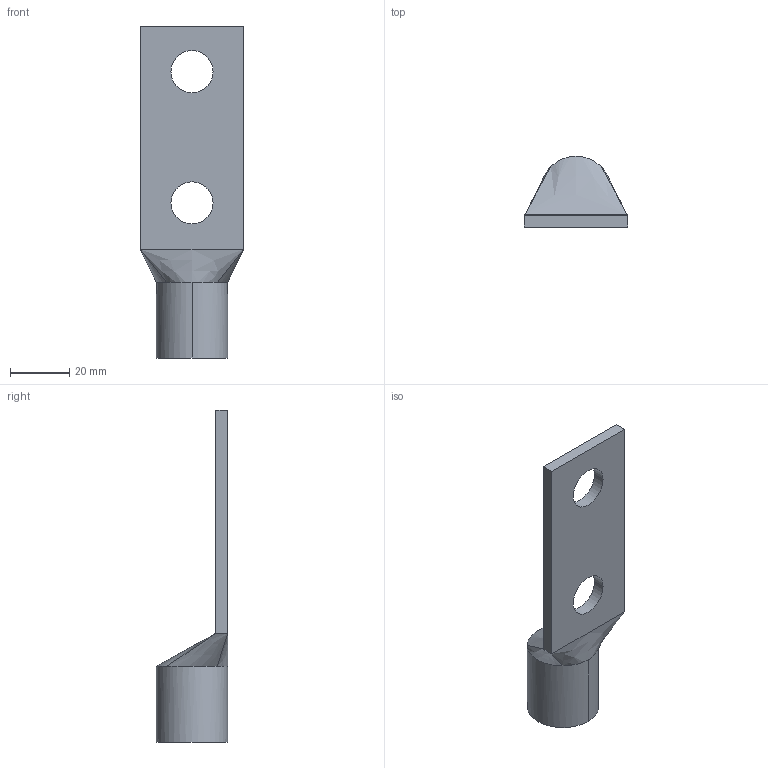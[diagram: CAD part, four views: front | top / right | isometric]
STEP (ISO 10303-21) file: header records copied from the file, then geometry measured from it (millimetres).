
FILE_DESCRIPTION((''),'2;1');
FILE_NAME('C-327286','2012-05-16T',('workeradm'),('Tyco Electronics Ltd.'),'PRO/ENGINEER BY PARAMETRIC TECHNOLOGY CORPORATION, 2010430','PRO/ENGINEER BY PARAMETRIC TECHNOLOGY CORPORATION, 2010430','');
FILE_SCHEMA(('AUTOMOTIVE_DESIGN { 1 0 10303 214 1 1 1 1 }'));
Length unit declared in the file: millimetre
Products named in the file (1): C-327286
Bounding box: 35.05 x 24.16 x 112.52 mm (x, y, z)
Volume: 23917.3 mm3; surface area: 9482.3 mm2
Topology: 1 solids, 1 shells, 20 faces, 52 edges, 35 vertices
Faces by surface type: plane 7, cylinder 6, bspline 5, cone 2
Entity records: 1057 total; most frequent: CARTESIAN_POINT 307, ORIENTED_EDGE 104, DIRECTION 98, COLOUR_RGB 64, EDGE_CURVE 52, AXIS2_PLACEMENT_3D 37, VERTEX_POINT 35, PROPERTY_DEFINITION 30
